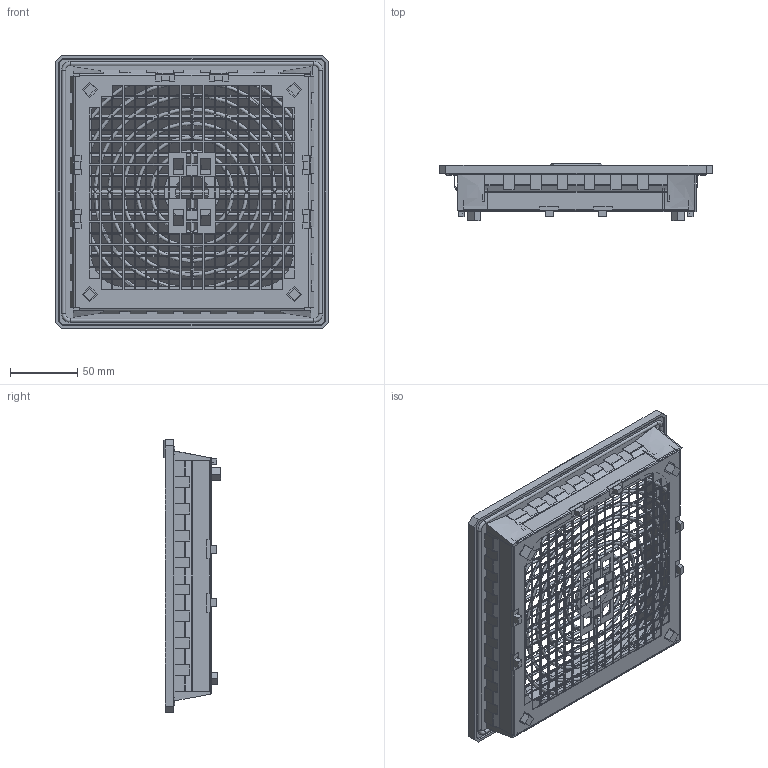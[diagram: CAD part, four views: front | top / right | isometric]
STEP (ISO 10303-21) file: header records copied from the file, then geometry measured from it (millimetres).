
FILE_DESCRIPTION (( 'STEP AP203' ), '1' );
FILE_NAME ('PFA 30EMV_PDG.STEP', '2021-11-24T12:01:56', ( '' ), ( '' ), 'SwSTEP 2.0', 'SolidWorks 2021', '' );
FILE_SCHEMA (( 'CONFIG_CONTROL_DESIGN' ));
Products named in the file (1): PFA 30EMV_PDG
Bounding box: 202.5 x 42.5 x 202.5 mm (x, y, z)
Surface area: 252365.2 mm2 (no closed solid volume)
Topology: 0 solids, 16 shells, 2256 faces, 7583 edges, 5197 vertices
Faces by surface type: plane 1857, cylinder 311, torus 56, bspline 32
Entity records: 90318 total; most frequent: CARTESIAN_POINT 25497, ORIENTED_EDGE 13517, DIRECTION 11637, EDGE_CURVE 7583, LINE 6059, VECTOR 6059, VERTEX_POINT 5197, EDGE_LOOP 2952
